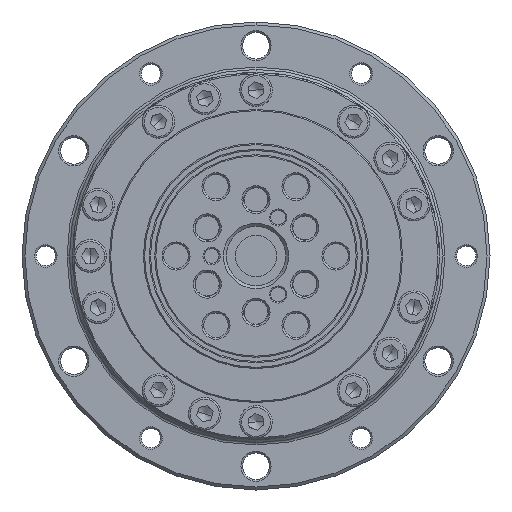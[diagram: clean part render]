
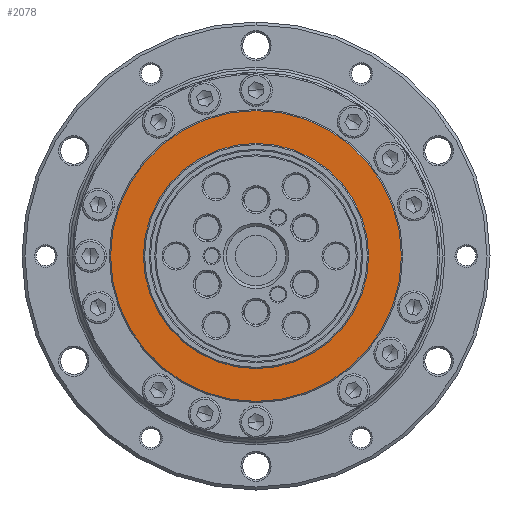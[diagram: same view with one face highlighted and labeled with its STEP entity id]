
A CAD part, left-side view. The second image highlights one B-rep face of the part: STEP entity #2078.
In plain terms, the highlighted planar face has unit normal (-1, 0, 0).
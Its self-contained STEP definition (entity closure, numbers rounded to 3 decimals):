
#2078=ADVANCED_FACE('',(#4378,#4379),#4380,.T.);
#4378=FACE_BOUND('',#8054,.T.);
#4379=FACE_OUTER_BOUND('',#8055,.T.);
#4380=PLANE('',#8056);
#8054=EDGE_LOOP('',(#14272,#14273));
#8055=EDGE_LOOP('',(#14274,#14275));
#8056=AXIS2_PLACEMENT_3D('',#14276,#14277,#14278);
#14272=ORIENTED_EDGE('',*,*,#16387,.F.);
#14273=ORIENTED_EDGE('',*,*,#18260,.F.);
#14274=ORIENTED_EDGE('',*,*,#18258,.F.);
#14275=ORIENTED_EDGE('',*,*,#16405,.F.);
#14276=CARTESIAN_POINT('',(-36.5,0.,24.75));
#14277=DIRECTION('',(-1.0,0.,0.));
#14278=DIRECTION('',(0.,0.0,1.0));
#16387=EDGE_CURVE('',#19511,#19507,#19513,.T.);
#16405=EDGE_CURVE('',#19539,#19542,#19543,.T.);
#18258=EDGE_CURVE('',#19542,#19539,#22226,.T.);
#18260=EDGE_CURVE('',#19507,#19511,#22228,.T.);
#19507=VERTEX_POINT('',#24275);
#19511=VERTEX_POINT('',#24280);
#19513=CIRCLE('',#24283,19.0);
#19539=VERTEX_POINT('',#24315);
#19542=VERTEX_POINT('',#24319);
#19543=CIRCLE('',#24320,24.55);
#22226=CIRCLE('',#28002,24.55);
#22228=CIRCLE('',#28004,19.0);
#24275=CARTESIAN_POINT('',(-36.5,16.454,9.5));
#24280=CARTESIAN_POINT('',(-36.5,-16.454,-9.5));
#24283=AXIS2_PLACEMENT_3D('',#29760,#29761,#29762);
#24315=CARTESIAN_POINT('',(-36.5,0.,-24.55));
#24319=CARTESIAN_POINT('',(-36.5,0.,24.55));
#24320=AXIS2_PLACEMENT_3D('',#29788,#29789,#29790);
#28002=AXIS2_PLACEMENT_3D('',#32905,#32906,#32907);
#28004=AXIS2_PLACEMENT_3D('',#32908,#32909,#32910);
#29760=CARTESIAN_POINT('',(-36.5,0.,0.));
#29761=DIRECTION('',(-1.0,0.,0.));
#29762=DIRECTION('',(0.,0.866,0.5));
#29788=CARTESIAN_POINT('',(-36.5,0.,0.));
#29789=DIRECTION('',(1.0,0.,0.));
#29790=DIRECTION('',(0.,0.,-1.0));
#32905=CARTESIAN_POINT('',(-36.5,0.,0.));
#32906=DIRECTION('',(1.0,0.,0.));
#32907=DIRECTION('',(0.,0.,-1.0));
#32908=CARTESIAN_POINT('',(-36.5,0.,0.));
#32909=DIRECTION('',(-1.0,0.,0.));
#32910=DIRECTION('',(0.,0.866,0.5));
